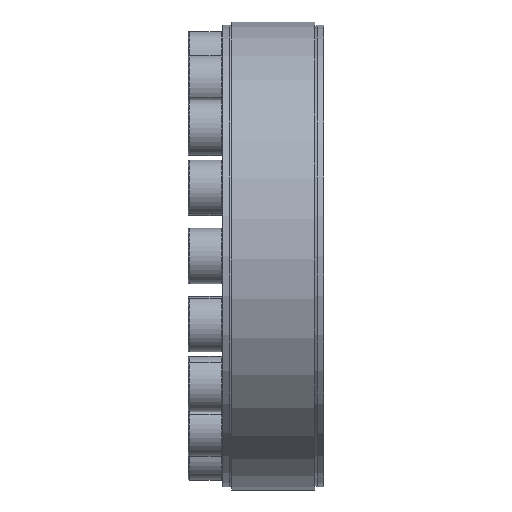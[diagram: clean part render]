
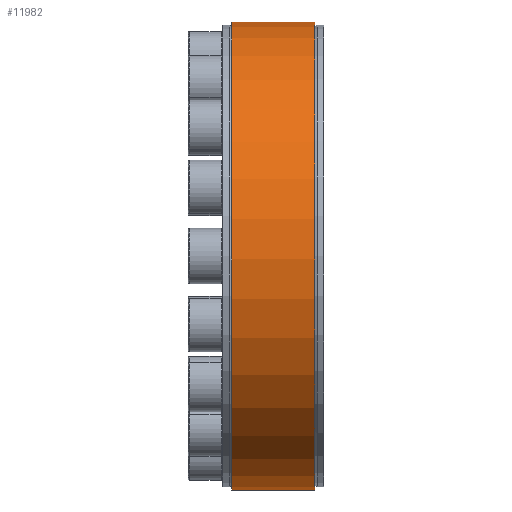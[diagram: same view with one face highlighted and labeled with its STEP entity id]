
A CAD part, front view. The second image highlights one B-rep face of the part: STEP entity #11982.
In plain terms, the highlighted cylindrical face has radius 67.5 mm (diameter 135 mm), a partial arc.
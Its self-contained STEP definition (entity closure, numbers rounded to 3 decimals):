
#282 = CARTESIAN_POINT ( 'NONE',  ( -14.578, 0., 0. ) ) ;
#728 = ORIENTED_EDGE ( 'NONE', *, *, #6568, .F. ) ;
#1388 = VERTEX_POINT ( 'NONE', #8736 ) ;
#1430 = AXIS2_PLACEMENT_3D ( 'NONE', #2135, #9357, #3194 ) ;
#1664 = AXIS2_PLACEMENT_3D ( 'NONE', #282, #2367, #5455 ) ;
#2135 = CARTESIAN_POINT ( 'NONE',  ( -12., 0., 0. ) ) ;
#2192 = VERTEX_POINT ( 'NONE', #5355 ) ;
#2199 = EDGE_CURVE ( 'NONE', #2661, #1388, #7860, .T. ) ;
#2284 = EDGE_CURVE ( 'NONE', #2192, #1388, #8982, .T. ) ;
#2367 = DIRECTION ( 'NONE',  ( -1., 0., 0. ) ) ;
#2543 = CARTESIAN_POINT ( 'NONE',  ( 12., 0., 0. ) ) ;
#2661 = VERTEX_POINT ( 'NONE', #5250 ) ;
#2915 = CARTESIAN_POINT ( 'NONE',  ( -14.578, 1.75, 67.477 ) ) ;
#3194 = DIRECTION ( 'NONE',  ( 0., 0., 1. ) ) ;
#3576 = EDGE_CURVE ( 'NONE', #2192, #7687, #9269, .T. ) ;
#3593 = DIRECTION ( 'NONE',  ( 0., 0., 1. ) ) ;
#3908 = AXIS2_PLACEMENT_3D ( 'NONE', #2543, #9767, #3593 ) ;
#4091 = FACE_OUTER_BOUND ( 'NONE', #11836, .T. ) ;
#5151 = CARTESIAN_POINT ( 'NONE',  ( -12., 1.75, 67.477 ) ) ;
#5250 = CARTESIAN_POINT ( 'NONE',  ( -12., -1.75, 67.477 ) ) ;
#5355 = CARTESIAN_POINT ( 'NONE',  ( 12., 1.75, 67.477 ) ) ;
#5455 = DIRECTION ( 'NONE',  ( 0., 0., 1. ) ) ;
#6568 = EDGE_CURVE ( 'NONE', #7687, #2661, #6776, .T. ) ;
#6776 = CIRCLE ( 'NONE', #1430, 67.5 ) ;
#7372 = ORIENTED_EDGE ( 'NONE', *, *, #2199, .F. ) ;
#7476 = DIRECTION ( 'NONE',  ( 1., 0., 0. ) ) ;
#7545 = VECTOR ( 'NONE', #7476, 1000. ) ;
#7687 = VERTEX_POINT ( 'NONE', #5151 ) ;
#7860 = LINE ( 'NONE', #9542, #7545 ) ;
#7877 = ORIENTED_EDGE ( 'NONE', *, *, #3576, .F. ) ;
#8736 = CARTESIAN_POINT ( 'NONE',  ( 12., -1.75, 67.477 ) ) ;
#8982 = CIRCLE ( 'NONE', #3908, 67.5 ) ;
#9253 = CYLINDRICAL_SURFACE ( 'NONE', #1664, 67.5 ) ;
#9269 = LINE ( 'NONE', #2915, #12029 ) ;
#9357 = DIRECTION ( 'NONE',  ( -1., 0., 0. ) ) ;
#9542 = CARTESIAN_POINT ( 'NONE',  ( -14.578, -1.75, 67.477 ) ) ;
#9767 = DIRECTION ( 'NONE',  ( -1., 0., 0. ) ) ;
#10141 = DIRECTION ( 'NONE',  ( -1., 0., 0. ) ) ;
#11836 = EDGE_LOOP ( 'NONE', ( #7877, #12963, #7372, #728 ) ) ;
#11982 = ADVANCED_FACE ( 'NONE', ( #4091 ), #9253, .T. ) ;
#12029 = VECTOR ( 'NONE', #10141, 1000. ) ;
#12963 = ORIENTED_EDGE ( 'NONE', *, *, #2284, .T. ) ;
